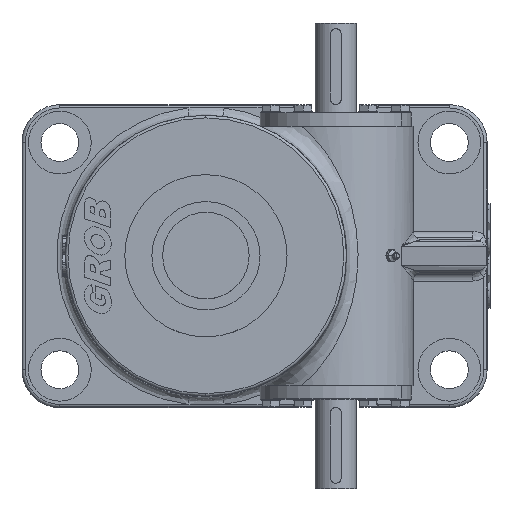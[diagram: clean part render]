
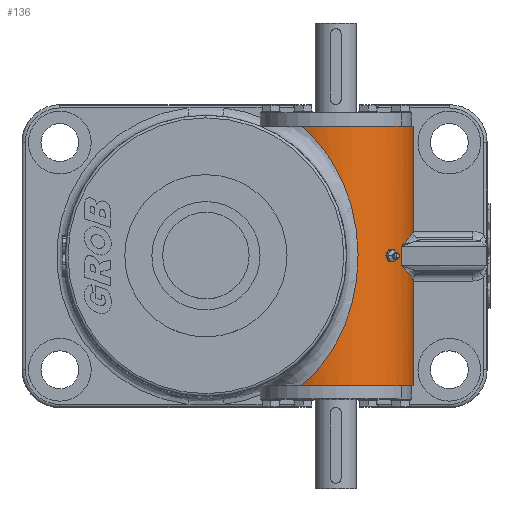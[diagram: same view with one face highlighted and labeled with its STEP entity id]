
A CAD part, top view. The second image highlights one B-rep face of the part: STEP entity #136.
In plain terms, the highlighted cylindrical face has radius 71.5 mm (diameter 143 mm), a partial arc.
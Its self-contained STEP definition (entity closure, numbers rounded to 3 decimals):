
#136=ADVANCED_FACE('',(#2822,#2823),#2824,.T.);
#2822=FACE_BOUND('',#8328,.T.);
#2823=FACE_OUTER_BOUND('',#8329,.T.);
#2824=CYLINDRICAL_SURFACE('',#8330,71.5);
#8328=EDGE_LOOP('',(#15887,#15888));
#8329=EDGE_LOOP('',(#15889,#15890,#15891,#15892,#15893,#15894,#15895,#15896));
#8330=AXIS2_PLACEMENT_3D('',#15897,#15898,#15899);
#15887=ORIENTED_EDGE('',*,*,#37457,.T.);
#15888=ORIENTED_EDGE('',*,*,#37458,.T.);
#15889=ORIENTED_EDGE('',*,*,#37459,.F.);
#15890=ORIENTED_EDGE('',*,*,#37460,.T.);
#15891=ORIENTED_EDGE('',*,*,#37461,.F.);
#15892=ORIENTED_EDGE('',*,*,#37462,.T.);
#15893=ORIENTED_EDGE('',*,*,#37448,.F.);
#15894=ORIENTED_EDGE('',*,*,#37463,.F.);
#15895=ORIENTED_EDGE('',*,*,#37464,.F.);
#15896=ORIENTED_EDGE('',*,*,#37465,.F.);
#15897=CARTESIAN_POINT('',(120.0,0.,115.0));
#15898=DIRECTION('',(-0.0,1.0,0.));
#15899=DIRECTION('',(1.0,0.0,0.0));
#37448=EDGE_CURVE('',#44779,#44780,#44781,.T.);
#37457=EDGE_CURVE('',#44797,#44798,#44799,.T.);
#37458=EDGE_CURVE('',#44798,#44797,#44800,.T.);
#37459=EDGE_CURVE('',#44801,#44802,#44803,.T.);
#37460=EDGE_CURVE('',#44801,#44804,#44805,.T.);
#37461=EDGE_CURVE('',#44806,#44804,#44807,.T.);
#37462=EDGE_CURVE('',#44806,#44780,#44808,.T.);
#37463=EDGE_CURVE('',#44809,#44779,#44810,.T.);
#37464=EDGE_CURVE('',#44811,#44809,#44812,.T.);
#37465=EDGE_CURVE('',#44802,#44811,#44813,.T.);
#44779=VERTEX_POINT('',#57202);
#44780=VERTEX_POINT('',#57203);
#44781=LINE('',#57204,#57205);
#44797=VERTEX_POINT('',#57248);
#44798=VERTEX_POINT('',#57249);
#44799=B_SPLINE_CURVE_WITH_KNOTS('',3,(#57250,#57251,#57252,#57253,#57254,#57255,#57256,#57257,#57258,#57259,#57260,#57261,#57262,#57263,#57264,#57265,#57266,#57267),.UNSPECIFIED.,.F.,.F.,(4,2,2,2,2,2,2,2,4),(0.754,0.942,1.13,1.319,1.507,1.696,1.884,2.073,2.261),.UNSPECIFIED.);
#44800=B_SPLINE_CURVE_WITH_KNOTS('',3,(#57268,#57269,#57270,#57271,#57272,#57273,#57274,#57275,#57276,#57277,#57278,#57279,#57280,#57281,#57282,#57283,#57284,#57285,#57286),.UNSPECIFIED.,.F.,.F.,(4,2,2,2,3,2,2,2,4),(2.261,2.449,2.638,2.826,3.015,3.203,3.391,3.58,3.768),.UNSPECIFIED.);
#44801=VERTEX_POINT('',#57287);
#44802=VERTEX_POINT('',#57288);
#44803=LINE('',#57289,#57290);
#44804=VERTEX_POINT('',#57291);
#44805=CIRCLE('',#57292,71.5);
#44806=VERTEX_POINT('',#57293);
#44807=B_SPLINE_CURVE_WITH_KNOTS('',3,(#57294,#57295,#57296,#57297,#57298,#57299,#57300,#57301,#57302,#57303,#57304,#57305,#57306,#57307,#57308,#57309,#57310,#57311,#57312,#57313),.UNSPECIFIED.,.F.,.F.,(4,1,1,1,1,1,1,1,1,1,1,1,1,1,1,1,1,4),(82.04,82.113,83.396,85.961,87.244,88.526,91.947,93.657,95.367,97.077,98.787,100.497,102.207,103.917,105.628,107.338,109.048,110.41),.UNSPECIFIED.);
#44808=CIRCLE('',#57314,71.5);
#44809=VERTEX_POINT('',#57315);
#44810=B_SPLINE_CURVE_WITH_KNOTS('',3,(#57316,#57317,#57318,#57319,#57320,#57321,#57322,#57323,#57324,#57325,#57326,#57327),.UNSPECIFIED.,.F.,.F.,(4,2,1,1,1,1,1,1,4),(-0.003,0.0,2.002,2.503,3.004,3.504,4.005,4.506,5.006),.UNSPECIFIED.);
#44811=VERTEX_POINT('',#57328);
#44812=LINE('',#57329,#57330);
#44813=B_SPLINE_CURVE_WITH_KNOTS('',3,(#57331,#57332,#57333,#57334,#57335,#57336,#57337,#57338,#57339,#57340,#57341,#57342),.UNSPECIFIED.,.F.,.F.,(4,1,1,1,1,1,1,2,4),(0.,1.001,2.002,3.004,3.504,4.005,4.506,5.006,5.01),.UNSPECIFIED.);
#57202=CARTESIAN_POINT('',(191.5,-22.906,115.0));
#57203=CARTESIAN_POINT('',(191.5,-120.0,115.0));
#57204=CARTESIAN_POINT('',(191.5,0.,115.0));
#57205=VECTOR('',#74675,1.0);
#57248=CARTESIAN_POINT('',(170.558,-5.,165.558));
#57249=CARTESIAN_POINT('',(170.558,5.,165.558));
#57250=CARTESIAN_POINT('',(170.558,-5.,165.558));
#57251=CARTESIAN_POINT('',(170.114,-5.,166.002));
#57252=CARTESIAN_POINT('',(169.634,-4.874,166.469));
#57253=CARTESIAN_POINT('',(168.74,-4.364,167.317));
#57254=CARTESIAN_POINT('',(168.326,-3.979,167.698));
#57255=CARTESIAN_POINT('',(167.667,-3.092,168.295));
#57256=CARTESIAN_POINT('',(167.378,-2.53,168.55));
#57257=CARTESIAN_POINT('',(166.994,-1.298,168.888));
#57258=CARTESIAN_POINT('',(166.899,-0.628,168.97));
#57259=CARTESIAN_POINT('',(166.899,0.628,168.97));
#57260=CARTESIAN_POINT('',(166.994,1.298,168.888));
#57261=CARTESIAN_POINT('',(167.378,2.53,168.55));
#57262=CARTESIAN_POINT('',(167.667,3.092,168.295));
#57263=CARTESIAN_POINT('',(168.326,3.979,167.698));
#57264=CARTESIAN_POINT('',(168.74,4.364,167.317));
#57265=CARTESIAN_POINT('',(169.634,4.874,166.469));
#57266=CARTESIAN_POINT('',(170.114,5.,166.002));
#57267=CARTESIAN_POINT('',(170.558,5.,165.558));
#57268=CARTESIAN_POINT('',(170.558,5.,165.558));
#57269=CARTESIAN_POINT('',(171.002,5.,165.114));
#57270=CARTESIAN_POINT('',(171.469,4.874,164.634));
#57271=CARTESIAN_POINT('',(172.317,4.364,163.74));
#57272=CARTESIAN_POINT('',(172.698,3.979,163.326));
#57273=CARTESIAN_POINT('',(173.295,3.092,162.667));
#57274=CARTESIAN_POINT('',(173.55,2.53,162.378));
#57275=CARTESIAN_POINT('',(173.888,1.298,161.994));
#57276=CARTESIAN_POINT('',(173.97,0.628,161.899));
#57277=CARTESIAN_POINT('',(173.97,0.,161.899));
#57278=CARTESIAN_POINT('',(173.97,-0.628,161.899));
#57279=CARTESIAN_POINT('',(173.888,-1.298,161.994));
#57280=CARTESIAN_POINT('',(173.55,-2.53,162.378));
#57281=CARTESIAN_POINT('',(173.295,-3.092,162.667));
#57282=CARTESIAN_POINT('',(172.698,-3.979,163.326));
#57283=CARTESIAN_POINT('',(172.317,-4.364,163.74));
#57284=CARTESIAN_POINT('',(171.469,-4.874,164.634));
#57285=CARTESIAN_POINT('',(171.002,-5.,165.114));
#57286=CARTESIAN_POINT('',(170.558,-5.,165.558));
#57287=CARTESIAN_POINT('',(191.5,120.0,115.0));
#57288=CARTESIAN_POINT('',(191.499,22.907,115.0));
#57289=CARTESIAN_POINT('',(191.5,0.,115.0));
#57290=VECTOR('',#74686,1.0);
#57291=CARTESIAN_POINT('',(88.089,120.,178.984));
#57292=AXIS2_PLACEMENT_3D('',#74687,#74688,#74689);
#57293=CARTESIAN_POINT('',(88.089,-120.,178.984));
#57294=CARTESIAN_POINT('',(88.089,-120.001,178.985));
#57295=CARTESIAN_POINT('',(88.244,-119.873,179.062));
#57296=CARTESIAN_POINT('',(91.112,-117.507,180.478));
#57297=CARTESIAN_POINT('',(99.436,-109.99,183.894));
#57298=CARTESIAN_POINT('',(109.55,-98.135,185.99));
#57299=CARTESIAN_POINT('',(118.361,-84.568,186.573));
#57300=CARTESIAN_POINT('',(127.389,-67.819,186.372));
#57301=CARTESIAN_POINT('',(134.586,-48.038,185.081));
#57302=CARTESIAN_POINT('',(139.025,-25.867,183.939));
#57303=CARTESIAN_POINT('',(140.728,-8.752,183.43));
#57304=CARTESIAN_POINT('',(140.743,8.368,183.426));
#57305=CARTESIAN_POINT('',(139.086,25.521,183.921));
#57306=CARTESIAN_POINT('',(135.734,42.332,184.79));
#57307=CARTESIAN_POINT('',(130.832,58.359,185.751));
#57308=CARTESIAN_POINT('',(124.349,73.723,186.492));
#57309=CARTESIAN_POINT('',(116.36,88.093,186.578));
#57310=CARTESIAN_POINT('',(107.156,101.045,185.573));
#57311=CARTESIAN_POINT('',(97.462,111.813,183.112));
#57312=CARTESIAN_POINT('',(90.969,117.636,180.421));
#57313=CARTESIAN_POINT('',(88.088,119.999,178.984));
#57314=AXIS2_PLACEMENT_3D('',#74690,#74691,#74692);
#57315=CARTESIAN_POINT('',(180.364,-9.,153.32));
#57316=CARTESIAN_POINT('',(180.364,-9.,153.32));
#57317=CARTESIAN_POINT('',(180.369,-9.004,153.312));
#57318=CARTESIAN_POINT('',(180.374,-9.009,153.304));
#57319=CARTESIAN_POINT('',(183.345,-11.596,148.619));
#57320=CARTESIAN_POINT('',(186.39,-14.846,142.323));
#57321=CARTESIAN_POINT('',(188.918,-18.184,134.201));
#57322=CARTESIAN_POINT('',(189.952,-19.707,130.009));
#57323=CARTESIAN_POINT('',(190.736,-21.024,125.723));
#57324=CARTESIAN_POINT('',(191.264,-22.082,121.349));
#57325=CARTESIAN_POINT('',(191.523,-22.81,116.868));
#57326=CARTESIAN_POINT('',(191.507,-23.,113.861));
#57327=CARTESIAN_POINT('',(191.451,-23.,112.361));
#57328=CARTESIAN_POINT('',(180.364,9.,153.32));
#57329=CARTESIAN_POINT('',(180.364,9.,153.32));
#57330=VECTOR('',#74693,18.0);
#57331=CARTESIAN_POINT('',(191.451,23.,112.361));
#57332=CARTESIAN_POINT('',(191.562,23.,115.361));
#57333=CARTESIAN_POINT('',(191.399,22.245,121.395));
#57334=CARTESIAN_POINT('',(190.075,19.806,130.058));
#57335=CARTESIAN_POINT('',(188.148,17.106,136.957));
#57336=CARTESIAN_POINT('',(186.166,14.735,142.205));
#57337=CARTESIAN_POINT('',(184.458,12.869,146.037));
#57338=CARTESIAN_POINT('',(182.537,10.952,149.743));
#57339=CARTESIAN_POINT('',(181.12,9.659,152.128));
#57340=CARTESIAN_POINT('',(180.374,9.009,153.304));
#57341=CARTESIAN_POINT('',(180.369,9.004,153.312));
#57342=CARTESIAN_POINT('',(180.364,9.,153.32));
#74675=DIRECTION('',(0.0,-1.0,0.));
#74686=DIRECTION('',(0.0,-1.0,0.));
#74687=CARTESIAN_POINT('',(120.0,120.0,115.0));
#74688=DIRECTION('',(0.0,-1.0,0.0));
#74689=DIRECTION('',(1.0,0.0,0.0));
#74690=CARTESIAN_POINT('',(120.0,-120.0,115.0));
#74691=DIRECTION('',(-0.0,1.0,0.0));
#74692=DIRECTION('',(1.0,0.0,0.0));
#74693=DIRECTION('',(0.0,-1.0,0.0));
